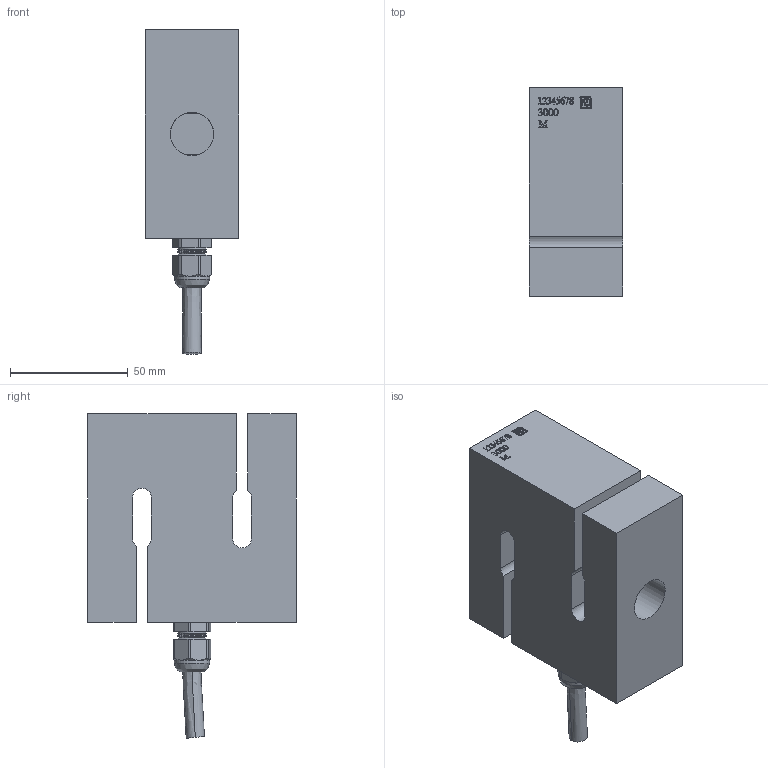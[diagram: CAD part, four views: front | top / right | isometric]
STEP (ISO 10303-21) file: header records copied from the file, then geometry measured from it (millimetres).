
FILE_DESCRIPTION(/* description */ (''),/* implementation_level */ '2;1');
FILE_NAME(/* name */ '//pdmuksvr/e/Marketing 2.0/1. Assets/10. CAD/Dumb CAD/ULB/ulb-3000kg-outline.step',/* time_stamp */ '2021-11-09T08:34:29+00:00',/* author */ (''),/* organization */ (''),/* preprocessor_version */ 'ST-DEVELOPER v18.1',/* originating_system */ 'Autodesk Translation Framework v10.10.0.1391',/* authorisation */ '');
FILE_SCHEMA (('AUTOMOTIVE_DESIGN { 1 0 10303 214 3 1 1 }'));
Length unit declared in the file: millimetre
Products named in the file (4): ulb-3000kg-outline; cableGland; cable; mainBody
Assembly tree (3 placements, depth 2):
  ulb-3000kg-outline
    cableGland
    cable
    mainBody
Bounding box: 39.8 x 88.7 x 137.98 mm (x, y, z)
Volume: 281071.3 mm3; surface area: 43633.5 mm2
Topology: 4 solids, 4 shells, 490 faces, 1221 edges, 807 vertices
Faces by surface type: bspline 185, plane 182, cylinder 72, cone 49, torus 2
Full cylindrical faces by diameter (mm): 0.5 x47, 7.62 x2, 9.335 x2, 14.986 x1, 18.5 x2
Entity records: 20697 total; most frequent: CARTESIAN_POINT 9941, ORIENTED_EDGE 2442, DIRECTION 1697, EDGE_CURVE 1221, VERTEX_POINT 807, LINE 601, VECTOR 601, EDGE_LOOP 566
